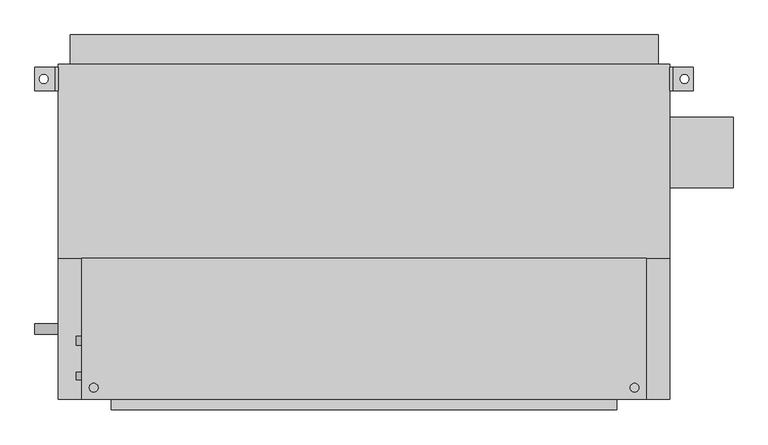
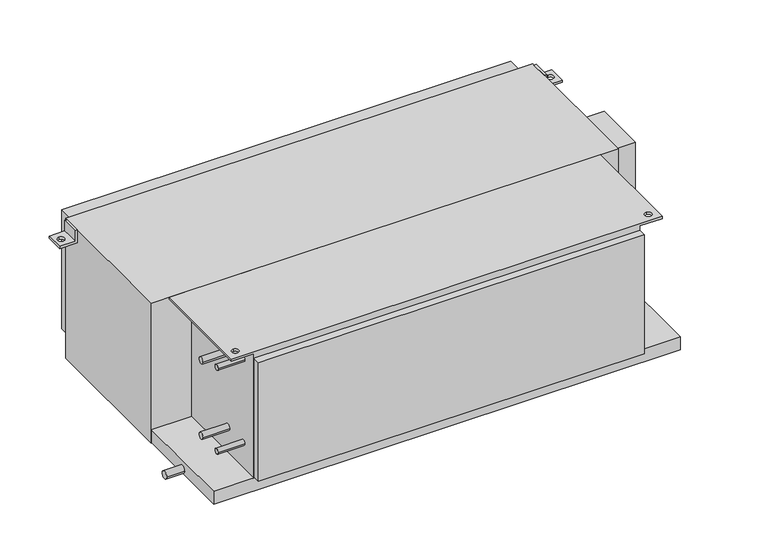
"""IFC4 building model written with IfcOpenShell, lengths in millimetres: proxy geometry, Concealed_High_Capacity_Horizontal_Fan_Coil_Unit_With_Plenum_-_42DCA_-_CARRIER_-_4-Pipe_LH_2022 : Size 18 - 277v/60Hz/1Ph - 6/2 Coil."""

from ifc_helpers import new_model, si_unit, point, frame, frame_2d, origin, place, context, project, spatial, polyline, circle_curve, trimmed, segment, composite_curve, outline, extrude, source, transform, mapped, element, save
from ifc_brep_helpers import plane_surface, revolved_surface, advanced_brep


def mechanical_equipment_d9ed041b(model_context):
    return source(origin(), model_context, "Body", "SolidModel", [
        advanced_brep(
        [(-457.2, -85.725, 0.0), (-457.2, -390.525, 0.0), (762.0, -390.525, 0.0), (762.0, -85.725, 0.0), (-431.8, -374.65, 0.0), (-431.8, -355.6, 0.0), (736.6, -374.65, 0.0), (736.6, -355.6, 0.0), (698.5, -85.725, -377.825), (698.5, -390.525, -377.825), (-393.7, -390.525, -377.825), (-393.7, -85.725, -377.825), (-393.7, -85.725, -6.35), (-457.2, -85.725, -6.35), (762.0, -85.725, -6.35), (698.5, -85.725, -6.35), (-393.7, -390.525, -6.35), (698.5, -390.525, -6.35), (762.0, -390.525, -6.35), (-457.2, -390.525, -6.35), (-431.8, -355.6, -6.35), (-431.8, -374.65, -6.35), (736.6, -355.6, -6.35), (736.6, -374.65, -6.35)],
        [
            (0, 1),
            (1, 2),
            (2, 3),
            (3, 0),
            (4, 5, circle_curve(frame((-431.8, -365.125, 0.0), z_axis=(0.0, 0.0, -1.0), x_axis=(0.0, 1.0, 0.0)), 9.525)),
            (5, 4, circle_curve(frame((-431.8, -365.125, 0.0), z_axis=(0.0, 0.0, -1.0), x_axis=(0.0, 1.0, 0.0)), 9.525)),
            (6, 7, circle_curve(frame((736.6, -365.125, 0.0), z_axis=(0.0, 0.0, -1.0), x_axis=(0.0, 1.0, 0.0)), 9.525)),
            (7, 6, circle_curve(frame((736.6, -365.125, 0.0), z_axis=(0.0, 0.0, -1.0), x_axis=(0.0, 1.0, 0.0)), 9.525)),
            (8, 9),
            (9, 10),
            (10, 11),
            (11, 8),
            (11, 12),
            (12, 13),
            (13, 0),
            (3, 14),
            (14, 15),
            (15, 8),
            (10, 16),
            (16, 12),
            (9, 17),
            (17, 18),
            (18, 2),
            (1, 19),
            (19, 16),
            (15, 17),
            (19, 13),
            (20, 21, circle_curve(frame((-431.8, -365.125, -6.35), z_axis=(0.0, 0.0, 1.0), x_axis=(0.0, 1.0, 0.0)), 9.525)),
            (21, 20, circle_curve(frame((-431.8, -365.125, -6.35), z_axis=(0.0, 0.0, 1.0), x_axis=(0.0, 1.0, 0.0)), 9.525)),
            (14, 18),
            (22, 23, circle_curve(frame((736.6, -365.125, -6.35), z_axis=(0.0, 0.0, 1.0), x_axis=(0.0, 1.0, 0.0)), 9.525)),
            (23, 22, circle_curve(frame((736.6, -365.125, -6.35), z_axis=(0.0, 0.0, 1.0), x_axis=(0.0, 1.0, 0.0)), 9.525)),
            (4, 21),
            (20, 5),
            (6, 23),
            (22, 7),
        ],
        [
            plane_surface(frame((-393.7, -85.725, 0.0), z_axis=(0.0, 0.0, 1.0), x_axis=(-1.0, 0.0, 0.0))),
            plane_surface(frame((-393.7, -85.725, -377.825), z_axis=(0.0, 0.0, -1.0), x_axis=(1.0, 0.0, 0.0))),
            plane_surface(frame((698.5, -85.725, 0.0), z_axis=(0.0, 1.0, 0.0), x_axis=(0.0, 0.0, -1.0))),
            plane_surface(frame((-393.7, -85.725, 0.0), z_axis=(-1.0, 0.0, 0.0), x_axis=(0.0, 0.0, -1.0))),
            plane_surface(frame((-393.7, -390.525, 0.0), z_axis=(0.0, -1.0, 0.0), x_axis=(0.0, 0.0, -1.0))),
            plane_surface(frame((698.5, -390.525, 0.0), z_axis=(1.0, 0.0, 0.0), x_axis=(0.0, 0.0, -1.0))),
            plane_surface(frame((-457.2, -85.725, -6.35), z_axis=(0.0, 0.0, -1.0), x_axis=(0.0, 1.0, 0.0))),
            plane_surface(frame((-457.2, -85.725, 0.0), z_axis=(-1.0, 0.0, 0.0), x_axis=(0.0, 0.0, -1.0))),
            plane_surface(frame((762.0, -390.525, 0.0), z_axis=(1.0, 0.0, 0.0), x_axis=(0.0, 0.0, -1.0))),
            revolved_surface(polyline([(-431.8, -355.6, -6.35), (-431.8, -355.6, 0.0)]), (-431.8, -365.125, 0.0), (0.0, 0.0, -1.0)),
            revolved_surface(polyline([(736.6, -355.6, -6.35), (736.6, -355.6, 0.0)]), (736.6, -365.125, 0.0), (0.0, 0.0, -1.0)),
        ],
        [
            (0, [[1, 2, 3, 4], [5, 6], [7, 8]]),
            (1, [[9, 10, 11, 12]]),
            (2, [[-12, 13, 14, 15, -4, 16, 17, 18]]),
            (3, [[-11, 19, 20, -13]]),
            (4, [[-10, 21, 22, 23, -2, 24, 25, -19]]),
            (5, [[-9, -18, 26, -21]]),
            (6, [[-14, -20, -25, 27], [28, 29]]),
            (6, [[30, -22, -26, -17], [31, 32]]),
            (7, [[-27, -24, -1, -15]]),
            (8, [[-30, -16, -3, -23]]),
            (9, [[33, -28, 34, -5]]),
            (9, [[-33, -6, -34, -29]]),
            (10, [[35, -31, 36, -7]]),
            (10, [[-35, -8, -36, -32]]),
        ],
    ),
        advanced_brep(
        [(-508.0, 327.025, -38.1), (-558.8, 327.025, -38.1), (-558.8, 327.025, -31.75), (-514.35, 327.025, -31.75), (-514.35, 327.025, 0.0), (-508.0, 327.025, 0.0), (-508.0, 276.225, -38.1), (-508.0, 276.225, 0.0), (-514.35, 276.225, 0.0), (-514.35, 276.225, -31.75), (-558.8, 276.225, -31.75), (-558.8, 276.225, -38.1), (-539.75, 292.1, -38.1), (-539.75, 311.15, -38.1), (-539.75, 311.15, -31.75), (-539.75, 292.1, -31.75)],
        [
            (0, 1),
            (1, 2),
            (2, 3),
            (3, 4),
            (4, 5),
            (5, 0),
            (6, 7),
            (7, 8),
            (8, 9),
            (9, 10),
            (10, 11),
            (11, 6),
            (0, 6),
            (11, 1),
            (12, 13, circle_curve(frame((-539.75, 301.625, -38.1), z_axis=(0.0, 0.0, 1.0), x_axis=(0.0, -1.0, 0.0)), 9.525)),
            (13, 12, circle_curve(frame((-539.75, 301.625, -38.1), z_axis=(0.0, 0.0, 1.0), x_axis=(0.0, -1.0, 0.0)), 9.525)),
            (10, 2),
            (9, 3),
            (14, 15, circle_curve(frame((-539.75, 301.625, -31.75), z_axis=(0.0, 0.0, -1.0), x_axis=(0.0, -1.0, 0.0)), 9.525)),
            (15, 14, circle_curve(frame((-539.75, 301.625, -31.75), z_axis=(0.0, 0.0, -1.0), x_axis=(0.0, -1.0, 0.0)), 9.525)),
            (8, 4),
            (7, 5),
            (14, 13),
            (12, 15),
        ],
        [
            plane_surface(frame((-508.0, 327.025, -38.1), z_axis=(0.0, 1.0, 0.0), x_axis=(-1.0, 0.0, 0.0))),
            plane_surface(frame((-508.0, 276.225, -38.1), z_axis=(0.0, -1.0, 0.0), x_axis=(1.0, 0.0, 0.0))),
            plane_surface(frame((-508.0, 327.025, -38.1), z_axis=(0.0, 0.0, -1.0), x_axis=(0.0, -1.0, 0.0))),
            plane_surface(frame((-558.8, 327.025, -38.1), z_axis=(-1.0, 0.0, 0.0), x_axis=(0.0, -1.0, 0.0))),
            plane_surface(frame((-558.8, 327.025, -31.75), z_axis=(0.0, 0.0, 1.0), x_axis=(0.0, -1.0, 0.0))),
            plane_surface(frame((-514.35, 327.025, -31.75), z_axis=(-1.0, 0.0, 0.0), x_axis=(0.0, -1.0, 0.0))),
            plane_surface(frame((-514.35, 327.025, 0.0), z_axis=(0.0, 0.0, 1.0), x_axis=(0.0, -1.0, 0.0))),
            plane_surface(frame((-508.0, 327.025, 0.0), z_axis=(1.0, 0.0, 0.0), x_axis=(0.0, -1.0, 0.0))),
            revolved_surface(polyline([(-539.75, 292.1, -38.1), (-539.75, 292.1, -31.75)]), (-539.75, 301.625, -31.75), (0.0, 0.0, -1.0)),
        ],
        [
            (0, [[1, 2, 3, 4, 5, 6]]),
            (1, [[7, 8, 9, 10, 11, 12]]),
            (2, [[-1, 13, -12, 14], [15, 16]]),
            (3, [[-2, -14, -11, 17]]),
            (4, [[-3, -17, -10, 18], [19, 20]]),
            (5, [[-4, -18, -9, 21]]),
            (6, [[-5, -21, -8, 22]]),
            (7, [[-6, -22, -7, -13]]),
            (8, [[23, -15, 24, -19]]),
            (8, [[-23, -20, -24, -16]]),
        ],
    ),
        advanced_brep(
        [(812.8, 327.025, -38.1), (812.8, 327.025, 0.0), (819.15, 327.025, 0.0), (819.15, 327.025, -31.75), (863.6, 327.025, -31.75), (863.6, 327.025, -38.1), (812.8, 276.225, -38.1), (863.6, 276.225, -38.1), (863.6, 276.225, -31.75), (819.15, 276.225, -31.75), (819.15, 276.225, 0.0), (812.8, 276.225, 0.0), (844.55, 311.15, -31.75), (844.55, 292.1, -31.75), (844.55, 292.1, -38.1), (844.55, 311.15, -38.1)],
        [
            (0, 1),
            (1, 2),
            (2, 3),
            (3, 4),
            (4, 5),
            (5, 0),
            (6, 7),
            (7, 8),
            (8, 9),
            (9, 10),
            (10, 11),
            (11, 6),
            (0, 6),
            (11, 1),
            (10, 2),
            (9, 3),
            (8, 4),
            (12, 13, circle_curve(frame((844.55, 301.625, -31.75), z_axis=(0.0, 0.0, -1.0), x_axis=(0.0, -1.0, 0.0)), 9.525)),
            (13, 12, circle_curve(frame((844.55, 301.625, -31.75), z_axis=(0.0, 0.0, -1.0), x_axis=(0.0, -1.0, 0.0)), 9.525)),
            (7, 5),
            (14, 15, circle_curve(frame((844.55, 301.625, -38.1), z_axis=(0.0, 0.0, 1.0), x_axis=(0.0, -1.0, 0.0)), 9.525)),
            (15, 14, circle_curve(frame((844.55, 301.625, -38.1), z_axis=(0.0, 0.0, 1.0), x_axis=(0.0, -1.0, 0.0)), 9.525)),
            (12, 15),
            (14, 13),
        ],
        [
            plane_surface(frame((-508.0, 327.025, -38.1), z_axis=(0.0, 1.0, 0.0), x_axis=(-1.0, 0.0, 0.0))),
            plane_surface(frame((-508.0, 276.225, -38.1), z_axis=(0.0, -1.0, 0.0), x_axis=(1.0, 0.0, 0.0))),
            plane_surface(frame((812.8, 327.025, -38.1), z_axis=(-1.0, 0.0, 0.0), x_axis=(0.0, -1.0, 0.0))),
            plane_surface(frame((812.8, 327.025, 0.0), z_axis=(0.0, 0.0, 1.0), x_axis=(0.0, -1.0, 0.0))),
            plane_surface(frame((819.15, 327.025, 0.0), z_axis=(1.0, 0.0, 0.0), x_axis=(0.0, -1.0, 0.0))),
            plane_surface(frame((819.15, 327.025, -31.75), z_axis=(0.0, 0.0, 1.0), x_axis=(0.0, -1.0, 0.0))),
            plane_surface(frame((863.6, 327.025, -31.75), z_axis=(1.0, 0.0, 0.0), x_axis=(0.0, -1.0, 0.0))),
            plane_surface(frame((863.6, 327.025, -38.1), z_axis=(0.0, 0.0, -1.0), x_axis=(0.0, -1.0, 0.0))),
            revolved_surface(polyline([(844.55, 292.1, -38.1), (844.55, 292.1, -31.75)]), (844.55, 301.625, -31.75), (0.0, 0.0, -1.0)),
        ],
        [
            (0, [[1, 2, 3, 4, 5, 6]]),
            (1, [[7, 8, 9, 10, 11, 12]]),
            (2, [[-1, 13, -12, 14]]),
            (3, [[-2, -14, -11, 15]]),
            (4, [[-3, -15, -10, 16]]),
            (5, [[-4, -16, -9, 17], [18, 19]]),
            (6, [[-5, -17, -8, 20]]),
            (7, [[-6, -20, -7, -13], [21, 22]]),
            (8, [[23, -21, 24, -18]]),
            (8, [[-23, -19, -24, -22]]),
        ],
    ),
        extrude(outline(polyline([(-482.6, 396.875), (787.4, 396.875), (787.4, 333.375), (-482.6, 333.375), (-482.6, 396.875)])), frame((0.0, 0.0, -377.825), z_axis=(0.0, 0.0, 1.0), x_axis=(1.0, 0.0, 0.0)), (0.0, 0.0, 1.0), 355.6),
        extrude(outline(composite_curve([segment(trimmed(circle_curve(frame_2d((-263.525, -76.2)), 9.525), [point((-273.05, -76.2))], [point((-254.0, -76.2))], False, "CARTESIAN"), True, "CONTINUOUS"), segment(trimmed(circle_curve(frame_2d((-263.525, -76.2)), 9.525), [point((-254.0, -76.2))], [point((-273.05, -76.2))], False, "CARTESIAN"), True, "CONTINUOUS")], self_intersect=False)), frame((-469.9, 0.0, 0.0), z_axis=(1.0, 0.0, 0.0), x_axis=(0.0, 1.0, 0.0)), (0.0, 0.0, 1.0), 76.2),
        extrude(outline(composite_curve([segment(trimmed(circle_curve(frame_2d((-263.525, -301.625)), 9.525), [point((-273.05, -301.625))], [point((-254.0, -301.625))], False, "CARTESIAN"), True, "CONTINUOUS"), segment(trimmed(circle_curve(frame_2d((-263.525, -301.625)), 9.525), [point((-254.0, -301.625))], [point((-273.05, -301.625))], False, "CARTESIAN"), True, "CONTINUOUS")], self_intersect=False)), frame((-469.9, 0.0, 0.0), z_axis=(1.0, 0.0, 0.0), x_axis=(0.0, 1.0, 0.0)), (0.0, 0.0, 1.0), 76.2),
        extrude(outline(composite_curve([segment(trimmed(circle_curve(frame_2d((-339.725, -50.8)), 7.9375), [point((-347.6625, -50.8))], [point((-331.7875, -50.8))], False, "CARTESIAN"), True, "CONTINUOUS"), segment(trimmed(circle_curve(frame_2d((-339.725, -50.8)), 7.9375), [point((-331.7875, -50.8))], [point((-347.6625, -50.8))], False, "CARTESIAN"), True, "CONTINUOUS")], self_intersect=False)), frame((-469.9, 0.0, 0.0), z_axis=(1.0, 0.0, 0.0), x_axis=(0.0, 1.0, 0.0)), (0.0, 0.0, 1.0), 76.2),
        extrude(outline(composite_curve([segment(trimmed(circle_curve(frame_2d((-339.725, -301.625)), 7.9375), [point((-347.6625, -301.625))], [point((-331.7875, -301.625))], False, "CARTESIAN"), True, "CONTINUOUS"), segment(trimmed(circle_curve(frame_2d((-339.725, -301.625)), 7.9375), [point((-331.7875, -301.625))], [point((-347.6625, -301.625))], False, "CARTESIAN"), True, "CONTINUOUS")], self_intersect=False)), frame((-469.9, 0.0, 0.0), z_axis=(1.0, 0.0, 0.0), x_axis=(0.0, 1.0, 0.0)), (0.0, 0.0, 1.0), 76.2),
        extrude(outline(composite_curve([segment(trimmed(circle_curve(frame_2d((-238.125, -403.225)), 11.1125), [point((-249.2375, -403.225))], [point((-227.0125, -403.225))], False, "CARTESIAN"), True, "CONTINUOUS"), segment(trimmed(circle_curve(frame_2d((-238.125, -403.225)), 11.1125), [point((-227.0125, -403.225))], [point((-249.2375, -403.225))], False, "CARTESIAN"), True, "CONTINUOUS")], self_intersect=False)), frame((-558.8, 0.0, 0.0), z_axis=(1.0, 0.0, 0.0), x_axis=(0.0, 1.0, 0.0)), (0.0, 0.0, 1.0), 50.8),
        extrude(outline(polyline([(949.325, 219.075), (949.325, 66.675), (812.8, 66.675), (812.8, 219.075), (949.325, 219.075)])), frame((0.0, 0.0, -273.05), z_axis=(0.0, 0.0, 1.0), x_axis=(1.0, 0.0, 0.0)), (0.0, 0.0, 1.0), 152.4),
        extrude(outline(polyline([(698.5, -412.75), (-393.7, -412.75), (-393.7, -390.525), (698.5, -390.525), (698.5, -412.75)])), frame((0.0, 0.0, -374.65), z_axis=(0.0, 0.0, 1.0), x_axis=(1.0, 0.0, 0.0)), (0.0, 0.0, 1.0), 355.6),
        extrude(outline(polyline([(812.8, -85.725), (-508.0, -85.725), (-508.0, 333.375), (812.8, 333.375), (812.8, -85.725)])), frame((0.0, 0.0, -419.1), z_axis=(0.0, 0.0, 1.0), x_axis=(1.0, 0.0, 0.0)), (0.0, 0.0, 1.0), 419.1),
        extrude(outline(polyline([(812.8, -85.725), (812.8, -390.525), (-508.0, -390.525), (-508.0, -85.725), (812.8, -85.725)])), frame((0.0, 0.0, -415.925), z_axis=(0.0, 0.0, 1.0), x_axis=(1.0, 0.0, 0.0)), (0.0, 0.0, 1.0), 38.1),
    ])


if __name__ == "__main__":
    model = new_model("IFC4")
    model_context = context("Model", 3, world=origin())
    ifc_project = project(units=[si_unit("LENGTHUNIT", "METRE", prefix="MILLI")], contexts=[model_context])
    site = spatial("IfcSite", under=ifc_project)
    building = spatial("IfcBuilding", under=site)
    placement = place(None, origin())
    mechanical_equipment_shape = mechanical_equipment_d9ed041b(model_context)
    element("IfcBuildingElementProxy", 1, Name="Concealed_High_Capacity_Horizontal_Fan_Coil_Unit_With_Plenum_-_42DCA_-_CARRIER_-_4-Pipe_LH_2022 : Size 18 - 277v/60Hz/1Ph - 6/2 Coil", ObjectType="Concealed_High_Capacity_Horizontal_Fan_Coil_Unit_With_Plenum_-_42DCA_-_CARRIER_-_4-Pipe_LH_2022 : Size 18 - 277v/60Hz/1Ph - 6/2 Coil", at=placement, inside=building, context=model_context, shape_type="MappedRepresentation", body=[
        mapped(mechanical_equipment_shape, transform((0.0, 0.0, 0.0), x_axis=(1.0, 0.0, 0.0), y_axis=(0.0, 1.0, 0.0), z_axis=(0.0, 0.0, 1.0))),
    ])
    save(model, "model.ifc")
